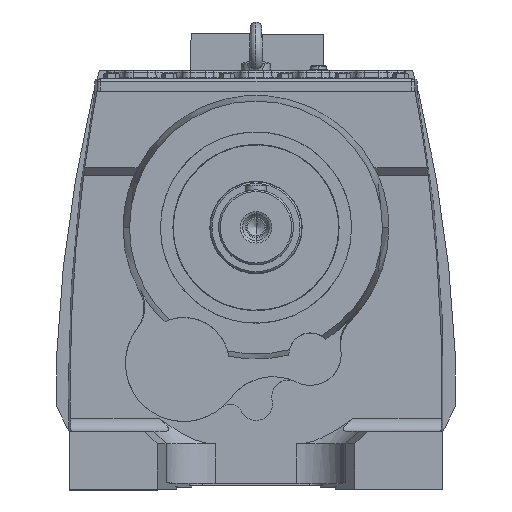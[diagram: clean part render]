
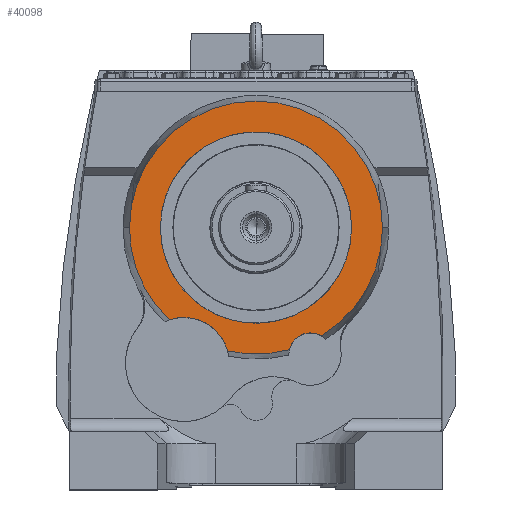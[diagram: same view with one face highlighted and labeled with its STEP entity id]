
A CAD part, top view. The second image highlights one B-rep face of the part: STEP entity #40098.
In plain terms, the highlighted planar face has unit normal (0, 0, 1).
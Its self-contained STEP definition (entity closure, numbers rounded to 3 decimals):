
#699 = CARTESIAN_POINT ( 'NONE',  ( -34.135, -148.426, 243. ) ) ;
#11060 = EDGE_LOOP ( 'NONE', ( #46891, #46852 ) ) ;
#11143 = EDGE_LOOP ( 'NONE', ( #46827, #47046, #46820, #46915, #46930, #46949 ) ) ;
#12337 = VERTEX_POINT ( 'NONE', #17087 ) ;
#12370 = VERTEX_POINT ( 'NONE', #17078 ) ;
#12380 = VERTEX_POINT ( 'NONE', #17164 ) ;
#12449 = VERTEX_POINT ( 'NONE', #17135 ) ;
#12486 = VERTEX_POINT ( 'NONE', #17215 ) ;
#12496 = VERTEX_POINT ( 'NONE', #17219 ) ;
#12606 = VERTEX_POINT ( 'NONE', #17237 ) ;
#17078 = CARTESIAN_POINT ( 'NONE',  ( -152.301, 0., 243. ) ) ;
#17087 = CARTESIAN_POINT ( 'NONE',  ( -104.316, -110.967, 243. ) ) ;
#17135 = CARTESIAN_POINT ( 'NONE',  ( 78.775, -130.346, 243. ) ) ;
#17164 = CARTESIAN_POINT ( 'NONE',  ( 152.301, 0., 243. ) ) ;
#17215 = CARTESIAN_POINT ( 'NONE',  ( -115., 0., 243. ) ) ;
#17219 = CARTESIAN_POINT ( 'NONE',  ( 40.186, -146.904, 243. ) ) ;
#17237 = CARTESIAN_POINT ( 'NONE',  ( 115., 0., 243. ) ) ;
#25155 = FACE_OUTER_BOUND ( 'NONE', #11143, .T. ) ;
#25173 = FACE_BOUND ( 'NONE', #11060, .T. ) ;
#26273 = DIRECTION ( 'NONE',  ( 0., 0., -1. ) ) ;
#26281 = CARTESIAN_POINT ( 'NONE',  ( -87.112, -163.207, 243. ) ) ;
#26285 = DIRECTION ( 'NONE',  ( -1., 0., 0. ) ) ;
#26628 = DIRECTION ( 'NONE',  ( 0., 0., -1. ) ) ;
#26646 = DIRECTION ( 'NONE',  ( -1., 0., 0. ) ) ;
#26651 = CARTESIAN_POINT ( 'NONE',  ( 0., 0., 243. ) ) ;
#31855 = CIRCLE ( 'NONE', #70344, 55. ) ;
#31960 = CIRCLE ( 'NONE', #69112, 152.301 ) ;
#33658 = EDGE_CURVE ( 'NONE', #12606, #12486, #44932, .T. ) ;
#33708 = EDGE_CURVE ( 'NONE', #51011, #12496, #44954, .T. ) ;
#33797 = EDGE_CURVE ( 'NONE', #12337, #12370, #45080, .T. ) ;
#33873 = EDGE_CURVE ( 'NONE', #12370, #12380, #45192, .T. ) ;
#34319 = AXIS2_PLACEMENT_3D ( 'NONE', #72709, #72696, #72705 ) ;
#34359 = AXIS2_PLACEMENT_3D ( 'NONE', #72874, #72880, #72853 ) ;
#34406 = AXIS2_PLACEMENT_3D ( 'NONE', #52873, #52866, #52856 ) ;
#34449 = AXIS2_PLACEMENT_3D ( 'NONE', #53162, #53158, #53163 ) ;
#34990 = AXIS2_PLACEMENT_3D ( 'NONE', #56604, #56596, #56584 ) ;
#35038 = AXIS2_PLACEMENT_3D ( 'NONE', #56774, #56754, #56779 ) ;
#37049 = EDGE_CURVE ( 'NONE', #12496, #12449, #54733, .T. ) ;
#37068 = EDGE_CURVE ( 'NONE', #12486, #12606, #54736, .T. ) ;
#40098 = ADVANCED_FACE ( 'NONE', ( #25155, #25173 ), #74078, .T. ) ;
#41600 = EDGE_CURVE ( 'NONE', #12337, #51011, #31855, .T. ) ;
#41672 = EDGE_CURVE ( 'NONE', #12380, #12449, #31960, .T. ) ;
#44932 = CIRCLE ( 'NONE', #34319, 115. ) ;
#44954 = CIRCLE ( 'NONE', #34359, 152.301 ) ;
#45080 = CIRCLE ( 'NONE', #34406, 152.301 ) ;
#45192 = CIRCLE ( 'NONE', #34449, 152.301 ) ;
#46820 = ORIENTED_EDGE ( 'NONE', *, *, #33708, .T. ) ;
#46827 = ORIENTED_EDGE ( 'NONE', *, *, #33797, .F. ) ;
#46852 = ORIENTED_EDGE ( 'NONE', *, *, #33658, .T. ) ;
#46891 = ORIENTED_EDGE ( 'NONE', *, *, #37068, .T. ) ;
#46915 = ORIENTED_EDGE ( 'NONE', *, *, #37049, .T. ) ;
#46930 = ORIENTED_EDGE ( 'NONE', *, *, #41672, .F. ) ;
#46949 = ORIENTED_EDGE ( 'NONE', *, *, #33873, .F. ) ;
#47046 = ORIENTED_EDGE ( 'NONE', *, *, #41600, .T. ) ;
#51011 = VERTEX_POINT ( 'NONE', #699 ) ;
#52856 = DIRECTION ( 'NONE',  ( -1., 0., 0. ) ) ;
#52866 = DIRECTION ( 'NONE',  ( 0., 0., -1. ) ) ;
#52873 = CARTESIAN_POINT ( 'NONE',  ( 0., 0., 243. ) ) ;
#53158 = DIRECTION ( 'NONE',  ( 0., 0., -1. ) ) ;
#53162 = CARTESIAN_POINT ( 'NONE',  ( 0., 0., 243. ) ) ;
#53163 = DIRECTION ( 'NONE',  ( -1., 0., 0. ) ) ;
#54733 = CIRCLE ( 'NONE', #34990, 26. ) ;
#54736 = CIRCLE ( 'NONE', #35038, 115. ) ;
#56584 = DIRECTION ( 'NONE',  ( -1., 0., 0. ) ) ;
#56596 = DIRECTION ( 'NONE',  ( 0., 0., -1. ) ) ;
#56604 = CARTESIAN_POINT ( 'NONE',  ( 65.528, -152.718, 243. ) ) ;
#56754 = DIRECTION ( 'NONE',  ( 0., 0., -1. ) ) ;
#56774 = CARTESIAN_POINT ( 'NONE',  ( 0., 0., 243. ) ) ;
#56779 = DIRECTION ( 'NONE',  ( -1., 0., 0. ) ) ;
#69112 = AXIS2_PLACEMENT_3D ( 'NONE', #26651, #26628, #26646 ) ;
#69962 = AXIS2_PLACEMENT_3D ( 'NONE', #74082, #74087, #74093 ) ;
#70344 = AXIS2_PLACEMENT_3D ( 'NONE', #26281, #26273, #26285 ) ;
#72696 = DIRECTION ( 'NONE',  ( 0., 0., -1. ) ) ;
#72705 = DIRECTION ( 'NONE',  ( -1., 0., 0. ) ) ;
#72709 = CARTESIAN_POINT ( 'NONE',  ( 0., 0., 243. ) ) ;
#72853 = DIRECTION ( 'NONE',  ( -1., 0., 0. ) ) ;
#72874 = CARTESIAN_POINT ( 'NONE',  ( 0., 0., 243. ) ) ;
#72880 = DIRECTION ( 'NONE',  ( 0., 0., 1. ) ) ;
#74078 = PLANE ( 'NONE',  #69962 ) ;
#74082 = CARTESIAN_POINT ( 'NONE',  ( 0., 0., 243. ) ) ;
#74087 = DIRECTION ( 'NONE',  ( 0., 0., 1. ) ) ;
#74093 = DIRECTION ( 'NONE',  ( 1., 0., 0. ) ) ;
